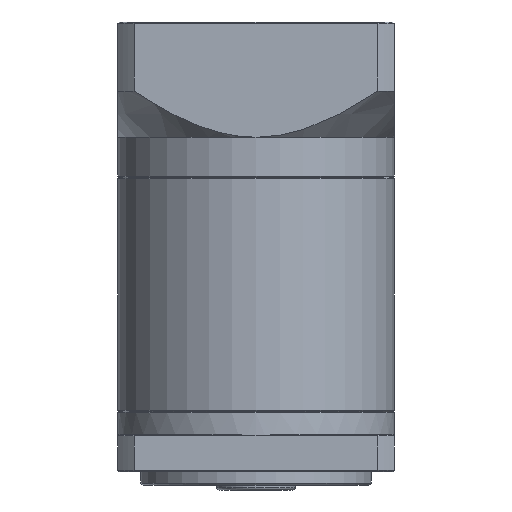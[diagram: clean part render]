
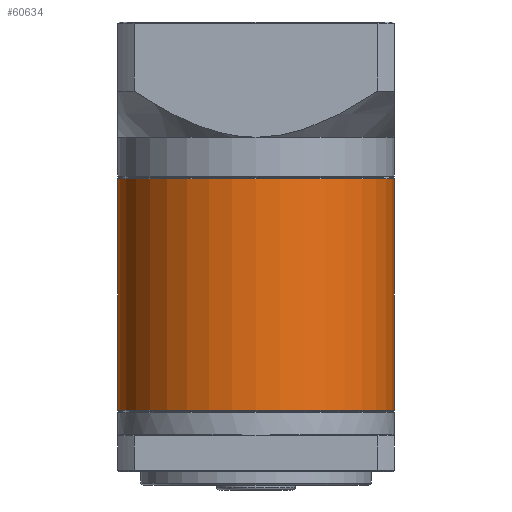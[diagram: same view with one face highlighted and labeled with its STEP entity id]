
A CAD part, front view. The second image highlights one B-rep face of the part: STEP entity #60634.
In plain terms, the highlighted cylindrical face has radius 30 mm (diameter 60 mm), a partial arc.
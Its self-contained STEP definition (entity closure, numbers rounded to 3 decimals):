
#2401 = ORIENTED_EDGE ( 'NONE', *, *, #26631, .T. ) ;
#4854 = VECTOR ( 'NONE', #11066, 1000. ) ;
#5476 = DIRECTION ( 'NONE',  ( 0., 0., -1. ) ) ;
#5553 = VERTEX_POINT ( 'NONE', #68093 ) ;
#7110 = LINE ( 'NONE', #16729, #68439 ) ;
#8042 = FACE_OUTER_BOUND ( 'NONE', #19188, .T. ) ;
#11066 = DIRECTION ( 'NONE',  ( 0., 0., -1. ) ) ;
#13483 = DIRECTION ( 'NONE',  ( 0., 0., -1. ) ) ;
#15513 = AXIS2_PLACEMENT_3D ( 'NONE', #48017, #5476, #30067 ) ;
#16642 = CYLINDRICAL_SURFACE ( 'NONE', #15513, 30. ) ;
#16729 = CARTESIAN_POINT ( 'NONE',  ( -89.367, 7.391, -29.81 ) ) ;
#16853 = EDGE_CURVE ( 'NONE', #67789, #5553, #37407, .T. ) ;
#17138 = CARTESIAN_POINT ( 'NONE',  ( -89.367, 7.391, -80.36 ) ) ;
#19188 = EDGE_LOOP ( 'NONE', ( #22899, #2401, #23238, #28258 ) ) ;
#22645 = EDGE_CURVE ( 'NONE', #38981, #50521, #7110, .T. ) ;
#22899 = ORIENTED_EDGE ( 'NONE', *, *, #16853, .F. ) ;
#22930 = DIRECTION ( 'NONE',  ( 0., 0., -1. ) ) ;
#23238 = ORIENTED_EDGE ( 'NONE', *, *, #22645, .T. ) ;
#26631 = EDGE_CURVE ( 'NONE', #67789, #38981, #49271, .T. ) ;
#28258 = ORIENTED_EDGE ( 'NONE', *, *, #30721, .T. ) ;
#30067 = DIRECTION ( 'NONE',  ( -1., 0., 0. ) ) ;
#30721 = EDGE_CURVE ( 'NONE', #50521, #5553, #41810, .T. ) ;
#31888 = DIRECTION ( 'NONE',  ( 0., 0., 1. ) ) ;
#37407 = LINE ( 'NONE', #41611, #4854 ) ;
#38981 = VERTEX_POINT ( 'NONE', #55939 ) ;
#40392 = CARTESIAN_POINT ( 'NONE',  ( -29.367, 7.391, -30.06 ) ) ;
#41611 = CARTESIAN_POINT ( 'NONE',  ( -29.367, 7.391, -29.81 ) ) ;
#41810 = CIRCLE ( 'NONE', #76761, 30. ) ;
#48017 = CARTESIAN_POINT ( 'NONE',  ( -59.367, 7.391, -29.81 ) ) ;
#49271 = CIRCLE ( 'NONE', #52683, 30. ) ;
#50234 = CARTESIAN_POINT ( 'NONE',  ( -59.367, 7.391, -30.06 ) ) ;
#50521 = VERTEX_POINT ( 'NONE', #17138 ) ;
#52683 = AXIS2_PLACEMENT_3D ( 'NONE', #50234, #13483, #56394 ) ;
#55939 = CARTESIAN_POINT ( 'NONE',  ( -89.367, 7.391, -30.06 ) ) ;
#56394 = DIRECTION ( 'NONE',  ( 1., 0., 0. ) ) ;
#60634 = ADVANCED_FACE ( 'NONE', ( #8042 ), #16642, .T. ) ;
#67789 = VERTEX_POINT ( 'NONE', #40392 ) ;
#68093 = CARTESIAN_POINT ( 'NONE',  ( -29.367, 7.391, -80.36 ) ) ;
#68439 = VECTOR ( 'NONE', #22930, 1000. ) ;
#68592 = CARTESIAN_POINT ( 'NONE',  ( -59.367, 7.391, -80.36 ) ) ;
#74723 = DIRECTION ( 'NONE',  ( 1., 0., 0. ) ) ;
#76761 = AXIS2_PLACEMENT_3D ( 'NONE', #68592, #31888, #74723 ) ;
